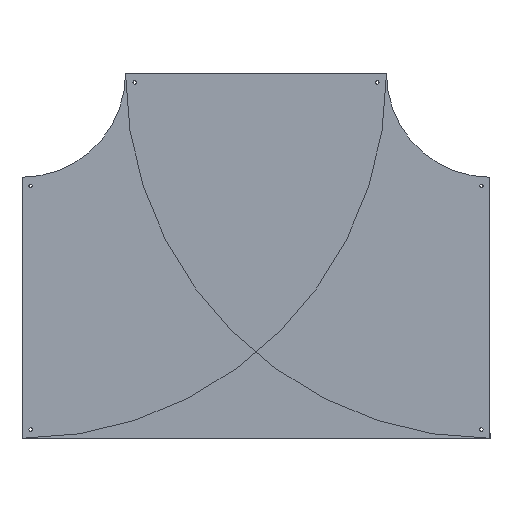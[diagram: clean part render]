
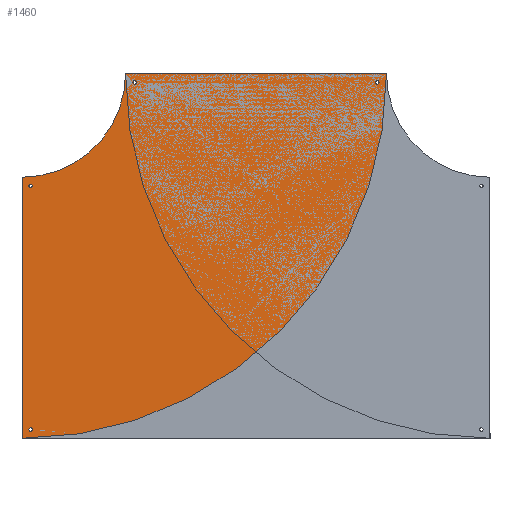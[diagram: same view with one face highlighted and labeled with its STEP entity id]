
A CAD part, top view. The second image highlights one B-rep face of the part: STEP entity #1460.
In plain terms, the highlighted planar face has unit normal (0, 0, 1).
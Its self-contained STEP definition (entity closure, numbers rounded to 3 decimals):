
#89=FACE_BOUND('',#365,.T.);
#90=FACE_BOUND('',#366,.T.);
#91=FACE_BOUND('',#367,.T.);
#92=FACE_BOUND('',#368,.T.);
#149=CIRCLE('',#1604,1051.5);
#150=CIRCLE('',#1605,298.5);
#151=CIRCLE('',#1606,5.);
#152=CIRCLE('',#1607,5.);
#153=CIRCLE('',#1608,5.);
#154=CIRCLE('',#1609,5.);
#155=CIRCLE('',#1610,5.);
#156=CIRCLE('',#1611,5.);
#157=CIRCLE('',#1612,5.);
#158=CIRCLE('',#1613,5.);
#268=FACE_OUTER_BOUND('',#364,.T.);
#364=EDGE_LOOP('',(#1224,#1225,#1226,#1227));
#365=EDGE_LOOP('',(#1228,#1229));
#366=EDGE_LOOP('',(#1230,#1231));
#367=EDGE_LOOP('',(#1232,#1233));
#368=EDGE_LOOP('',(#1234,#1235));
#488=LINE('',#2427,#602);
#492=LINE('',#2436,#606);
#602=VECTOR('',#1972,304.8);
#606=VECTOR('',#1978,304.8);
#718=VERTEX_POINT('',#2425);
#719=VERTEX_POINT('',#2426);
#722=VERTEX_POINT('',#2434);
#723=VERTEX_POINT('',#2435);
#726=VERTEX_POINT('',#2445);
#727=VERTEX_POINT('',#2446);
#728=VERTEX_POINT('',#2449);
#729=VERTEX_POINT('',#2450);
#730=VERTEX_POINT('',#2453);
#731=VERTEX_POINT('',#2454);
#732=VERTEX_POINT('',#2457);
#733=VERTEX_POINT('',#2458);
#892=EDGE_CURVE('',#718,#719,#488,.T.);
#896=EDGE_CURVE('',#722,#723,#492,.T.);
#900=EDGE_CURVE('',#718,#723,#149,.T.);
#901=EDGE_CURVE('',#722,#719,#150,.T.);
#902=EDGE_CURVE('',#726,#727,#151,.T.);
#903=EDGE_CURVE('',#727,#726,#152,.T.);
#904=EDGE_CURVE('',#728,#729,#153,.T.);
#905=EDGE_CURVE('',#729,#728,#154,.T.);
#906=EDGE_CURVE('',#730,#731,#155,.T.);
#907=EDGE_CURVE('',#731,#730,#156,.T.);
#908=EDGE_CURVE('',#732,#733,#157,.T.);
#909=EDGE_CURVE('',#733,#732,#158,.T.);
#1224=ORIENTED_EDGE('',*,*,#892,.F.);
#1225=ORIENTED_EDGE('',*,*,#900,.T.);
#1226=ORIENTED_EDGE('',*,*,#896,.F.);
#1227=ORIENTED_EDGE('',*,*,#901,.T.);
#1228=ORIENTED_EDGE('',*,*,#902,.T.);
#1229=ORIENTED_EDGE('',*,*,#903,.T.);
#1230=ORIENTED_EDGE('',*,*,#904,.T.);
#1231=ORIENTED_EDGE('',*,*,#905,.T.);
#1232=ORIENTED_EDGE('',*,*,#906,.T.);
#1233=ORIENTED_EDGE('',*,*,#907,.T.);
#1234=ORIENTED_EDGE('',*,*,#908,.T.);
#1235=ORIENTED_EDGE('',*,*,#909,.T.);
#1396=PLANE('',#1603);
#1460=ADVANCED_FACE('',(#268,#89,#90,#91,#92),#1396,.T.);
#1603=AXIS2_PLACEMENT_3D('',#2442,#1982,#1983);
#1604=AXIS2_PLACEMENT_3D('',#2443,#1984,#1985);
#1605=AXIS2_PLACEMENT_3D('',#2444,#1986,#1987);
#1606=AXIS2_PLACEMENT_3D('',#2447,#1988,#1989);
#1607=AXIS2_PLACEMENT_3D('',#2448,#1990,#1991);
#1608=AXIS2_PLACEMENT_3D('',#2451,#1992,#1993);
#1609=AXIS2_PLACEMENT_3D('',#2452,#1994,#1995);
#1610=AXIS2_PLACEMENT_3D('',#2455,#1996,#1997);
#1611=AXIS2_PLACEMENT_3D('',#2456,#1998,#1999);
#1612=AXIS2_PLACEMENT_3D('',#2459,#2000,#2001);
#1613=AXIS2_PLACEMENT_3D('',#2460,#2002,#2003);
#1972=DIRECTION('',(0.,1.,0.));
#1978=DIRECTION('',(1.,0.,0.));
#1982=DIRECTION('center_axis',(0.,0.,1.));
#1983=DIRECTION('ref_axis',(0.,-1.,0.));
#1984=DIRECTION('center_axis',(0.,0.,1.));
#1985=DIRECTION('ref_axis',(0.,-1.,0.));
#1986=DIRECTION('center_axis',(0.,0.,-1.));
#1987=DIRECTION('ref_axis',(0.,-1.,0.));
#1988=DIRECTION('center_axis',(0.,0.,-1.));
#1989=DIRECTION('ref_axis',(1.,0.,0.));
#1990=DIRECTION('center_axis',(0.,0.,-1.));
#1991=DIRECTION('ref_axis',(1.,0.,0.));
#1992=DIRECTION('center_axis',(0.,0.,-1.));
#1993=DIRECTION('ref_axis',(1.,0.,0.));
#1994=DIRECTION('center_axis',(0.,0.,-1.));
#1995=DIRECTION('ref_axis',(1.,0.,0.));
#1996=DIRECTION('center_axis',(0.,0.,-1.));
#1997=DIRECTION('ref_axis',(1.,0.,0.));
#1998=DIRECTION('center_axis',(0.,0.,-1.));
#1999=DIRECTION('ref_axis',(1.,0.,0.));
#2000=DIRECTION('center_axis',(0.,0.,-1.));
#2001=DIRECTION('ref_axis',(1.,0.,0.));
#2002=DIRECTION('center_axis',(0.,0.,-1.));
#2003=DIRECTION('ref_axis',(1.,0.,0.));
#2425=CARTESIAN_POINT('',(-675.,-376.5,1.5));
#2426=CARTESIAN_POINT('',(-675.,376.5,1.5));
#2427=CARTESIAN_POINT('',(-675.,-376.5,1.5));
#2434=CARTESIAN_POINT('',(-376.5,675.,1.5));
#2435=CARTESIAN_POINT('',(376.5,675.,1.5));
#2436=CARTESIAN_POINT('',(-376.5,675.,1.5));
#2442=CARTESIAN_POINT('Origin',(-675.,675.,1.5));
#2443=CARTESIAN_POINT('Origin',(-675.,675.,1.5));
#2444=CARTESIAN_POINT('Origin',(-675.,675.,1.5));
#2445=CARTESIAN_POINT('',(-645.,-351.5,1.5));
#2446=CARTESIAN_POINT('',(-655.,-351.5,1.5));
#2447=CARTESIAN_POINT('Origin',(-650.,-351.5,1.5));
#2448=CARTESIAN_POINT('Origin',(-650.,-351.5,1.5));
#2449=CARTESIAN_POINT('',(-645.,351.5,1.5));
#2450=CARTESIAN_POINT('',(-655.,351.5,1.5));
#2451=CARTESIAN_POINT('Origin',(-650.,351.5,1.5));
#2452=CARTESIAN_POINT('Origin',(-650.,351.5,1.5));
#2453=CARTESIAN_POINT('',(-345.,650.,1.5));
#2454=CARTESIAN_POINT('',(-355.,650.,1.5));
#2455=CARTESIAN_POINT('Origin',(-350.,650.,1.5));
#2456=CARTESIAN_POINT('Origin',(-350.,650.,1.5));
#2457=CARTESIAN_POINT('',(355.,650.,1.5));
#2458=CARTESIAN_POINT('',(345.,650.,1.5));
#2459=CARTESIAN_POINT('Origin',(350.,650.,1.5));
#2460=CARTESIAN_POINT('Origin',(350.,650.,1.5));
